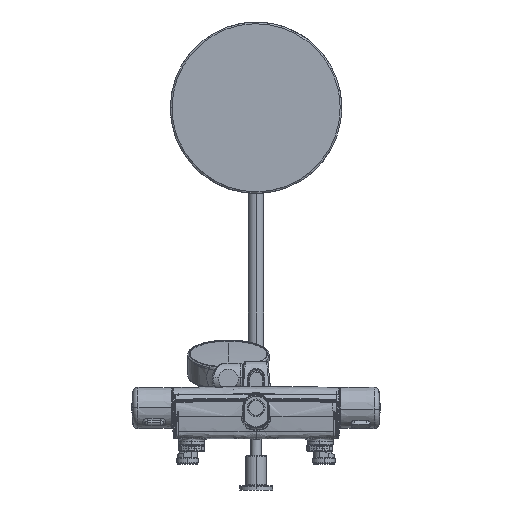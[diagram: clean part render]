
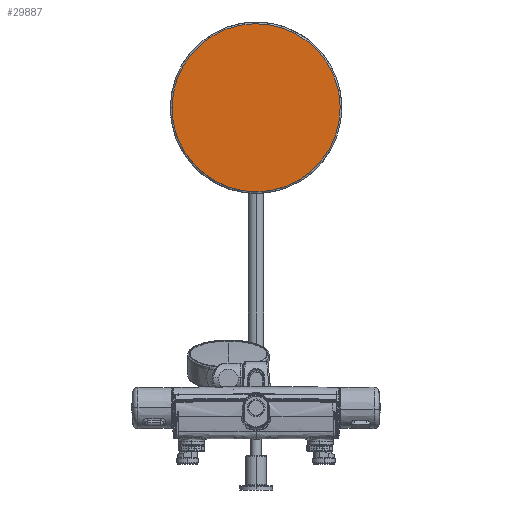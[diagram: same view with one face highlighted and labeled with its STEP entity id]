
A CAD part, front view. The second image highlights one B-rep face of the part: STEP entity #29887.
In plain terms, the highlighted planar face has unit normal (0, -1, 0).
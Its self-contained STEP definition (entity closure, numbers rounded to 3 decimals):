
#939 = CARTESIAN_POINT ( 'NONE',  ( -12.828, 984.9, 252.632 ) ) ;
#3268 = CARTESIAN_POINT ( 'NONE',  ( -6.414, 984.9, 448. ) ) ;
#3474 = CARTESIAN_POINT ( 'NONE',  ( -94.866, 984.9, 375.41 ) ) ;
#5806 = CARTESIAN_POINT ( 'NONE',  ( 85.048, 984.9, 300.887 ) ) ;
#6420 = CARTESIAN_POINT ( 'NONE',  ( 64.761, 984.9, 276.168 ) ) ;
#7730 = CARTESIAN_POINT ( 'NONE',  ( 43.429, 984.9, 438.086 ) ) ;
#7886 = EDGE_CURVE ( 'NONE', #20327, #11988, #52670, .T. ) ;
#8146 = CARTESIAN_POINT ( 'NONE',  ( 49.113, 984.9, 435.048 ) ) ;
#10657 = CARTESIAN_POINT ( 'NONE',  ( 49.113, 984.9, 264.952 ) ) ;
#11284 = CARTESIAN_POINT ( 'NONE',  ( -92.995, 984.9, 318.423 ) ) ;
#11988 = VERTEX_POINT ( 'NONE', #56616 ) ;
#12982 = CARTESIAN_POINT ( 'NONE',  ( 64.761, 984.9, 423.832 ) ) ;
#13187 = CARTESIAN_POINT ( 'NONE',  ( 88.086, 984.9, 393.429 ) ) ;
#13330 = CARTESIAN_POINT ( 'NONE',  ( 98., 984.9, 350. ) ) ;
#13401 = CARTESIAN_POINT ( 'NONE',  ( -49.113, 984.9, 435.048 ) ) ;
#15417 = EDGE_CURVE ( 'NONE', #11988, #20327, #33539, .T. ) ;
#15714 = CARTESIAN_POINT ( 'NONE',  ( 12.828, 984.9, 252.632 ) ) ;
#15918 = CARTESIAN_POINT ( 'NONE',  ( -77.921, 984.9, 290.221 ) ) ;
#17205 = PLANE ( 'NONE',  #32272 ) ;
#18255 = DIRECTION ( 'NONE',  ( 1., 0., 0. ) ) ;
#18278 = CARTESIAN_POINT ( 'NONE',  ( 94.866, 984.9, 375.41 ) ) ;
#20181 = CARTESIAN_POINT ( 'NONE',  ( 88.086, 984.9, 306.571 ) ) ;
#20327 = VERTEX_POINT ( 'NONE', #13330 ) ;
#20388 = CARTESIAN_POINT ( 'NONE',  ( 59.779, 984.9, 272.079 ) ) ;
#20590 = CARTESIAN_POINT ( 'NONE',  ( -49.113, 984.9, 264.952 ) ) ;
#20791 = CARTESIAN_POINT ( 'NONE',  ( -64.761, 984.9, 276.168 ) ) ;
#22053 = CARTESIAN_POINT ( 'NONE',  ( -98., 984.9, 343.586 ) ) ;
#22526 = CARTESIAN_POINT ( 'NONE',  ( -98., 984.9, 350. ) ) ;
#22737 = CARTESIAN_POINT ( 'NONE',  ( -97.368, 984.9, 362.828 ) ) ;
#22940 = CARTESIAN_POINT ( 'NONE',  ( 59.779, 984.9, 427.921 ) ) ;
#23136 = CARTESIAN_POINT ( 'NONE',  ( 97.368, 984.9, 362.828 ) ) ;
#24028 = ORIENTED_EDGE ( 'NONE', *, *, #15417, .F. ) ;
#25028 = CARTESIAN_POINT ( 'NONE',  ( 43.429, 984.9, 261.914 ) ) ;
#25236 = CARTESIAN_POINT ( 'NONE',  ( 73.832, 984.9, 285.239 ) ) ;
#25442 = CARTESIAN_POINT ( 'NONE',  ( -59.779, 984.9, 272.079 ) ) ;
#25843 = CARTESIAN_POINT ( 'NONE',  ( 98., 984.9, 350. ) ) ;
#27155 = CARTESIAN_POINT ( 'NONE',  ( -85.048, 984.9, 399.113 ) ) ;
#27362 = CARTESIAN_POINT ( 'NONE',  ( -88.086, 984.9, 393.429 ) ) ;
#27566 = CARTESIAN_POINT ( 'NONE',  ( -43.429, 984.9, 438.086 ) ) ;
#27985 = DIRECTION ( 'NONE',  ( 0., 1., 0. ) ) ;
#29887 = ADVANCED_FACE ( 'NONE', ( #50374 ), #17205, .F. ) ;
#29889 = CARTESIAN_POINT ( 'NONE',  ( 6.414, 984.9, 252. ) ) ;
#30096 = CARTESIAN_POINT ( 'NONE',  ( 92.995, 984.9, 318.423 ) ) ;
#30713 = CARTESIAN_POINT ( 'NONE',  ( 97.368, 984.9, 337.172 ) ) ;
#31804 = CARTESIAN_POINT ( 'NONE',  ( 98., 984.9, 356.414 ) ) ;
#32009 = CARTESIAN_POINT ( 'NONE',  ( -64.761, 984.9, 423.832 ) ) ;
#32224 = CARTESIAN_POINT ( 'NONE',  ( -25.41, 984.9, 444.866 ) ) ;
#32272 = AXIS2_PLACEMENT_3D ( 'NONE', #47282, #27985, #18255 ) ;
#32648 = CARTESIAN_POINT ( 'NONE',  ( -12.828, 984.9, 447.368 ) ) ;
#33539 = B_SPLINE_CURVE_WITH_KNOTS ( 'NONE', 3,
 ( #22526, #46670, #22737, #3474, #56410, #27362, #27155, #56842, #36674, #32009, #61272, #13401, #27566, #51963, #32224, #32648, #3268, #56202, #46453, #42400, #56625, #7730, #8146, #22940, #12982, #37315, #37514, #42186, #13187, #47093, #18278, #23136, #31804, #57048 ),
 .UNSPECIFIED., .F., .F.,
 ( 4, 2, 2, 2, 2, 2, 2, 2, 2, 2, 2, 2, 2, 2, 2, 2, 4 ),
 ( 0.5, 0.531, 0.563, 0.594, 0.625, 0.656, 0.688, 0.719, 0.75, 0.781, 0.813, 0.844, 0.875, 0.906, 0.938, 0.969, 1. ),
 .UNSPECIFIED. ) ;
#34755 = CARTESIAN_POINT ( 'NONE',  ( 94.866, 984.9, 324.59 ) ) ;
#35367 = CARTESIAN_POINT ( 'NONE',  ( -25.41, 984.9, 255.134 ) ) ;
#36674 = CARTESIAN_POINT ( 'NONE',  ( -73.832, 984.9, 414.761 ) ) ;
#37315 = CARTESIAN_POINT ( 'NONE',  ( 73.832, 984.9, 414.761 ) ) ;
#37514 = CARTESIAN_POINT ( 'NONE',  ( 77.921, 984.9, 409.779 ) ) ;
#39286 = ORIENTED_EDGE ( 'NONE', *, *, #7886, .F. ) ;
#39641 = CARTESIAN_POINT ( 'NONE',  ( -31.577, 984.9, 257.005 ) ) ;
#40261 = CARTESIAN_POINT ( 'NONE',  ( -88.086, 984.9, 306.571 ) ) ;
#41525 = CARTESIAN_POINT ( 'NONE',  ( -94.866, 984.9, 324.59 ) ) ;
#42186 = CARTESIAN_POINT ( 'NONE',  ( 85.048, 984.9, 399.113 ) ) ;
#42400 = CARTESIAN_POINT ( 'NONE',  ( 25.41, 984.9, 444.866 ) ) ;
#43319 = EDGE_LOOP ( 'NONE', ( #39286, #24028 ) ) ;
#44507 = CARTESIAN_POINT ( 'NONE',  ( -43.429, 984.9, 261.914 ) ) ;
#44918 = CARTESIAN_POINT ( 'NONE',  ( 25.41, 984.9, 255.134 ) ) ;
#46453 = CARTESIAN_POINT ( 'NONE',  ( 12.828, 984.9, 447.368 ) ) ;
#46670 = CARTESIAN_POINT ( 'NONE',  ( -98., 984.9, 356.414 ) ) ;
#47093 = CARTESIAN_POINT ( 'NONE',  ( 92.995, 984.9, 381.577 ) ) ;
#47282 = CARTESIAN_POINT ( 'NONE',  ( 0., 984.9, 350. ) ) ;
#50054 = CARTESIAN_POINT ( 'NONE',  ( 98., 984.9, 343.586 ) ) ;
#50374 = FACE_OUTER_BOUND ( 'NONE', #43319, .T. ) ;
#50866 = CARTESIAN_POINT ( 'NONE',  ( -97.368, 984.9, 337.172 ) ) ;
#51963 = CARTESIAN_POINT ( 'NONE',  ( -31.577, 984.9, 442.995 ) ) ;
#52670 = B_SPLINE_CURVE_WITH_KNOTS ( 'NONE', 3,
 ( #25843, #50054, #30713, #34755, #30096, #20181, #5806, #54079, #25236, #6420, #20388, #10657, #25028, #54504, #44918, #15714, #29889, #54291, #939, #35367, #39641, #44507, #20590, #25442, #20791, #59347, #15918, #54711, #40261, #11284, #41525, #50866, #22053, #55745 ),
 .UNSPECIFIED., .F., .F.,
 ( 4, 2, 2, 2, 2, 2, 2, 2, 2, 2, 2, 2, 2, 2, 2, 2, 4 ),
 ( 0., 0.031, 0.063, 0.094, 0.125, 0.156, 0.188, 0.219, 0.25, 0.281, 0.313, 0.344, 0.375, 0.406, 0.438, 0.469, 0.5 ),
 .UNSPECIFIED. ) ;
#54079 = CARTESIAN_POINT ( 'NONE',  ( 77.921, 984.9, 290.221 ) ) ;
#54291 = CARTESIAN_POINT ( 'NONE',  ( -6.414, 984.9, 252. ) ) ;
#54504 = CARTESIAN_POINT ( 'NONE',  ( 31.577, 984.9, 257.005 ) ) ;
#54711 = CARTESIAN_POINT ( 'NONE',  ( -85.048, 984.9, 300.887 ) ) ;
#55745 = CARTESIAN_POINT ( 'NONE',  ( -98., 984.9, 350. ) ) ;
#56202 = CARTESIAN_POINT ( 'NONE',  ( 6.414, 984.9, 448. ) ) ;
#56410 = CARTESIAN_POINT ( 'NONE',  ( -92.995, 984.9, 381.577 ) ) ;
#56616 = CARTESIAN_POINT ( 'NONE',  ( -98., 984.9, 350. ) ) ;
#56625 = CARTESIAN_POINT ( 'NONE',  ( 31.577, 984.9, 442.995 ) ) ;
#56842 = CARTESIAN_POINT ( 'NONE',  ( -77.921, 984.9, 409.779 ) ) ;
#57048 = CARTESIAN_POINT ( 'NONE',  ( 98., 984.9, 350. ) ) ;
#59347 = CARTESIAN_POINT ( 'NONE',  ( -73.832, 984.9, 285.239 ) ) ;
#61272 = CARTESIAN_POINT ( 'NONE',  ( -59.779, 984.9, 427.921 ) ) ;
